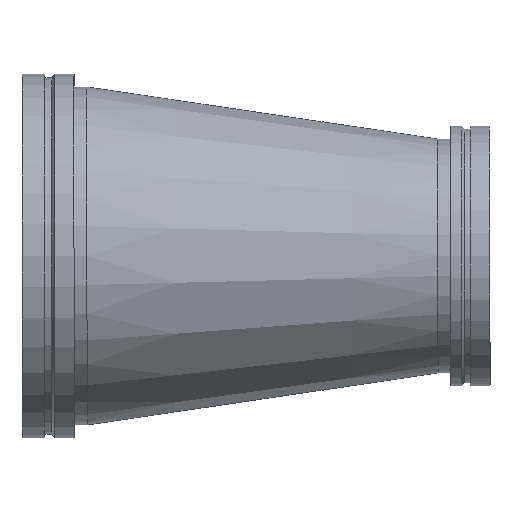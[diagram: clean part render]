
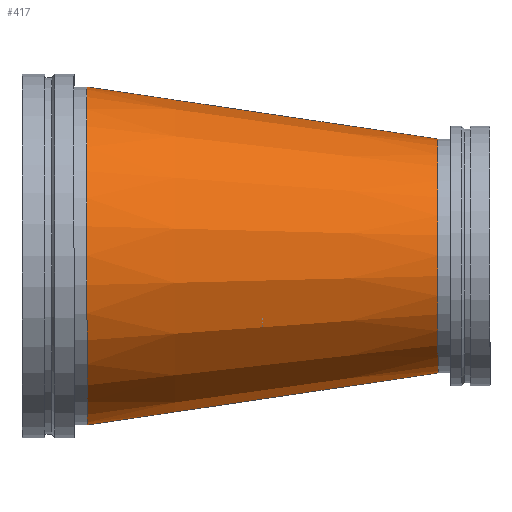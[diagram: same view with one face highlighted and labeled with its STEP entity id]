
A CAD part, top view. The second image highlights one B-rep face of the part: STEP entity #417.
In plain terms, the highlighted conical face has half-angle 8.427 degrees and reference radius 279.4 mm.
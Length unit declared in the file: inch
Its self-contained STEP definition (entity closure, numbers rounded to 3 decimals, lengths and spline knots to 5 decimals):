
#46=CONICAL_SURFACE('',#475,11.,0.147);
#54=LINE('',#739,#68);
#68=VECTOR('',#587,11.);
#101=FACE_OUTER_BOUND('',#124,.T.);
#124=EDGE_LOOP('',(#315,#316,#317,#318,#319,#320));
#155=CIRCLE('',#473,13.);
#156=CIRCLE('',#474,13.);
#157=CIRCLE('',#476,9.);
#158=CIRCLE('',#477,9.);
#195=VERTEX_POINT('',#729);
#196=VERTEX_POINT('',#730);
#197=VERTEX_POINT('',#735);
#198=VERTEX_POINT('',#736);
#239=EDGE_CURVE('',#195,#196,#155,.T.);
#240=EDGE_CURVE('',#196,#195,#156,.T.);
#242=EDGE_CURVE('',#197,#198,#157,.T.);
#243=EDGE_CURVE('',#198,#197,#158,.T.);
#244=EDGE_CURVE('',#198,#196,#54,.T.);
#315=ORIENTED_EDGE('',*,*,#242,.F.);
#316=ORIENTED_EDGE('',*,*,#243,.F.);
#317=ORIENTED_EDGE('',*,*,#244,.T.);
#318=ORIENTED_EDGE('',*,*,#240,.T.);
#319=ORIENTED_EDGE('',*,*,#239,.T.);
#320=ORIENTED_EDGE('',*,*,#244,.F.);
#417=ADVANCED_FACE('',(#101),#46,.T.);
#473=AXIS2_PLACEMENT_3D('',#731,#576,#577);
#474=AXIS2_PLACEMENT_3D('',#732,#578,#579);
#475=AXIS2_PLACEMENT_3D('',#734,#581,#582);
#476=AXIS2_PLACEMENT_3D('',#737,#583,#584);
#477=AXIS2_PLACEMENT_3D('',#738,#585,#586);
#576=DIRECTION('center_axis',(1.,0.,0.));
#577=DIRECTION('ref_axis',(0.,0.,-1.));
#578=DIRECTION('center_axis',(1.,0.,0.));
#579=DIRECTION('ref_axis',(0.,0.,-1.));
#581=DIRECTION('center_axis',(-1.,0.,0.));
#582=DIRECTION('ref_axis',(0.,1.,0.));
#583=DIRECTION('center_axis',(1.,0.,0.));
#584=DIRECTION('ref_axis',(0.,0.,-1.));
#585=DIRECTION('center_axis',(1.,0.,0.));
#586=DIRECTION('ref_axis',(0.,0.,-1.));
#587=DIRECTION('',(-0.989,-0.147,0.));
#729=CARTESIAN_POINT('',(5.,13.,0.));
#730=CARTESIAN_POINT('',(5.,-13.,0.));
#731=CARTESIAN_POINT('Origin',(5.,0.,0.));
#732=CARTESIAN_POINT('Origin',(5.,0.,0.));
#734=CARTESIAN_POINT('Origin',(18.5,0.,0.));
#735=CARTESIAN_POINT('',(32.,9.,0.));
#736=CARTESIAN_POINT('',(32.,-9.,0.));
#737=CARTESIAN_POINT('Origin',(32.,0.,0.));
#738=CARTESIAN_POINT('Origin',(32.,0.,0.));
#739=CARTESIAN_POINT('',(18.5,-11.,0.));
